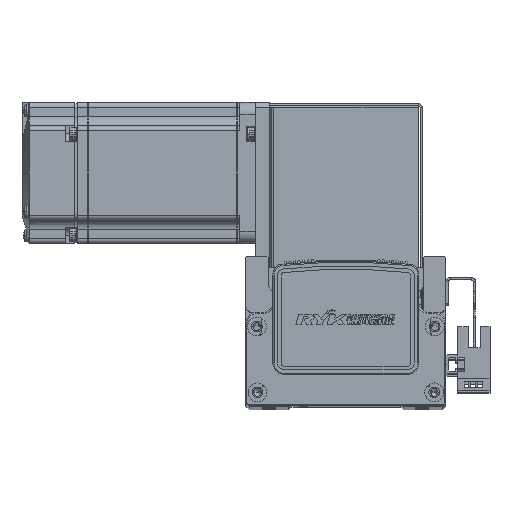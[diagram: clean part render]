
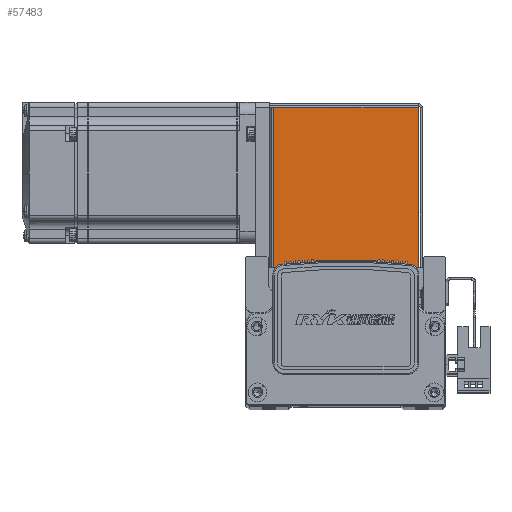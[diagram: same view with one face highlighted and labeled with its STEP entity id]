
A CAD part, top view. The second image highlights one B-rep face of the part: STEP entity #57483.
In plain terms, the highlighted planar face has unit normal (0, 0, 1).
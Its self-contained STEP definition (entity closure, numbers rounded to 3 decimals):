
#5103 = LINE ( 'NONE', #74254, #5114 ) ;
#5110 = LINE ( 'NONE', #74183, #5128 ) ;
#5114 = VECTOR ( 'NONE', #74224, 1000. ) ;
#5128 = VECTOR ( 'NONE', #74172, 1000. ) ;
#5166 = LINE ( 'NONE', #74360, #5174 ) ;
#5174 = VECTOR ( 'NONE', #74358, 1000. ) ;
#5184 = VECTOR ( 'NONE', #74217, 1000. ) ;
#5214 = LINE ( 'NONE', #74214, #5184 ) ;
#11025 = PLANE ( 'NONE',  #45009 ) ;
#11033 = CARTESIAN_POINT ( 'NONE',  ( 0., 0., 35. ) ) ;
#11035 = DIRECTION ( 'NONE',  ( -1., 0., 0. ) ) ;
#11046 = DIRECTION ( 'NONE',  ( 0., 0., -1. ) ) ;
#14588 = FACE_OUTER_BOUND ( 'NONE', #66501, .T. ) ;
#21856 = ORIENTED_EDGE ( 'NONE', *, *, #25460, .F. ) ;
#21889 = ORIENTED_EDGE ( 'NONE', *, *, #25338, .T. ) ;
#21964 = ORIENTED_EDGE ( 'NONE', *, *, #25382, .T. ) ;
#21967 = ORIENTED_EDGE ( 'NONE', *, *, #25392, .F. ) ;
#25338 = EDGE_CURVE ( 'NONE', #71725, #71680, #5110, .T. ) ;
#25382 = EDGE_CURVE ( 'NONE', #71673, #71725, #5103, .T. ) ;
#25392 = EDGE_CURVE ( 'NONE', #71673, #71675, #5214, .T. ) ;
#25460 = EDGE_CURVE ( 'NONE', #71675, #71680, #5166, .T. ) ;
#45009 = AXIS2_PLACEMENT_3D ( 'NONE', #11033, #11046, #11035 ) ;
#57483 = ADVANCED_FACE ( 'NONE', ( #14588 ), #11025, .F. ) ;
#66501 = EDGE_LOOP ( 'NONE', ( #21964, #21889, #21856, #21967 ) ) ;
#71673 = VERTEX_POINT ( 'NONE', #79337 ) ;
#71675 = VERTEX_POINT ( 'NONE', #79310 ) ;
#71680 = VERTEX_POINT ( 'NONE', #79322 ) ;
#71725 = VERTEX_POINT ( 'NONE', #79357 ) ;
#74172 = DIRECTION ( 'NONE',  ( -1., 0., 0. ) ) ;
#74183 = CARTESIAN_POINT ( 'NONE',  ( 0., 68.5, 35. ) ) ;
#74214 = CARTESIAN_POINT ( 'NONE',  ( -32.5, 0.737, 35. ) ) ;
#74217 = DIRECTION ( 'NONE',  ( -1., 0., 0. ) ) ;
#74224 = DIRECTION ( 'NONE',  ( 0., 1., 0. ) ) ;
#74254 = CARTESIAN_POINT ( 'NONE',  ( 30.763, 0.737, 35. ) ) ;
#74358 = DIRECTION ( 'NONE',  ( 0., 1., 0. ) ) ;
#74360 = CARTESIAN_POINT ( 'NONE',  ( -30.793, 0., 35. ) ) ;
#79310 = CARTESIAN_POINT ( 'NONE',  ( -30.793, 0.737, 35. ) ) ;
#79322 = CARTESIAN_POINT ( 'NONE',  ( -30.793, 68.5, 35. ) ) ;
#79337 = CARTESIAN_POINT ( 'NONE',  ( 30.763, 0.737, 35. ) ) ;
#79357 = CARTESIAN_POINT ( 'NONE',  ( 30.763, 68.5, 35. ) ) ;
